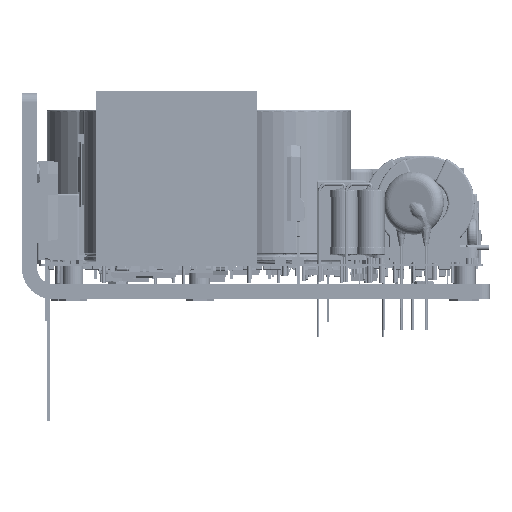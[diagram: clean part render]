
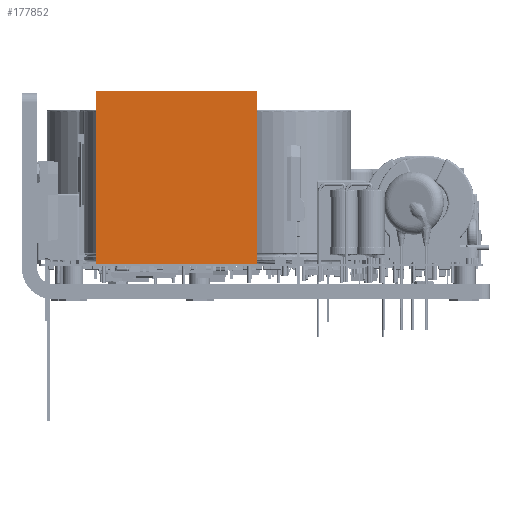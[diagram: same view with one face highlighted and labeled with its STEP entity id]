
A CAD part, left-side view. The second image highlights one B-rep face of the part: STEP entity #177852.
In plain terms, the highlighted planar face has unit normal (-1, 0, 0) as drawn and (0, 1, 0) by its records, which use the part's own axes.
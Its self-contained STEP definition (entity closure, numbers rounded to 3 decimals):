
#177852 = ADVANCED_FACE('',(#177853),#177887,.T.);
#177853 = FACE_BOUND('',#177854,.T.);
#177854 = EDGE_LOOP('',(#177855,#177865,#177873,#177881));
#177855 = ORIENTED_EDGE('',*,*,#177856,.T.);
#177856 = EDGE_CURVE('',#177857,#177859,#177861,.T.);
#177857 = VERTEX_POINT('',#177858);
#177858 = CARTESIAN_POINT('',(-1.95,37.78,0.));
#177859 = VERTEX_POINT('',#177860);
#177860 = CARTESIAN_POINT('',(-1.95,37.78,45.3));
#177861 = LINE('',#177862,#177863);
#177862 = CARTESIAN_POINT('',(-1.95,37.78,0.));
#177863 = VECTOR('',#177864,1.);
#177864 = DIRECTION('',(0.,0.,1.));
#177865 = ORIENTED_EDGE('',*,*,#177866,.T.);
#177866 = EDGE_CURVE('',#177859,#177867,#177869,.T.);
#177867 = VERTEX_POINT('',#177868);
#177868 = CARTESIAN_POINT('',(40.05,37.78,45.3));
#177869 = LINE('',#177870,#177871);
#177870 = CARTESIAN_POINT('',(-1.95,37.78,45.3));
#177871 = VECTOR('',#177872,1.);
#177872 = DIRECTION('',(1.,0.,0.));
#177873 = ORIENTED_EDGE('',*,*,#177874,.F.);
#177874 = EDGE_CURVE('',#177875,#177867,#177877,.T.);
#177875 = VERTEX_POINT('',#177876);
#177876 = CARTESIAN_POINT('',(40.05,37.78,0.));
#177877 = LINE('',#177878,#177879);
#177878 = CARTESIAN_POINT('',(40.05,37.78,0.));
#177879 = VECTOR('',#177880,1.);
#177880 = DIRECTION('',(0.,0.,1.));
#177881 = ORIENTED_EDGE('',*,*,#177882,.F.);
#177882 = EDGE_CURVE('',#177857,#177875,#177883,.T.);
#177883 = LINE('',#177884,#177885);
#177884 = CARTESIAN_POINT('',(-1.95,37.78,0.));
#177885 = VECTOR('',#177886,1.);
#177886 = DIRECTION('',(1.,0.,0.));
#177887 = PLANE('',#177888);
#177888 = AXIS2_PLACEMENT_3D('',#177889,#177890,#177891);
#177889 = CARTESIAN_POINT('',(-1.95,37.78,0.));
#177890 = DIRECTION('',(0.,1.,0.));
#177891 = DIRECTION('',(1.,0.,0.));
